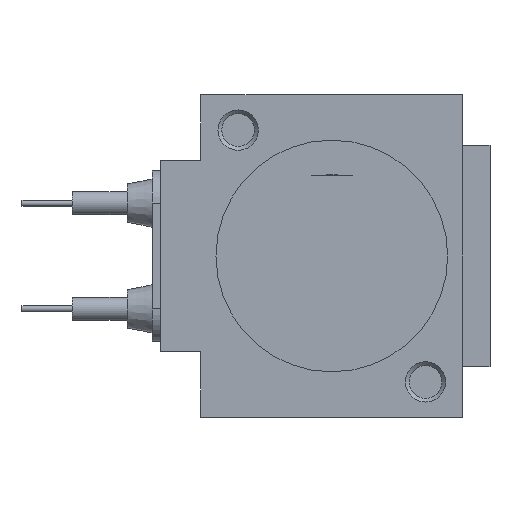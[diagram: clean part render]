
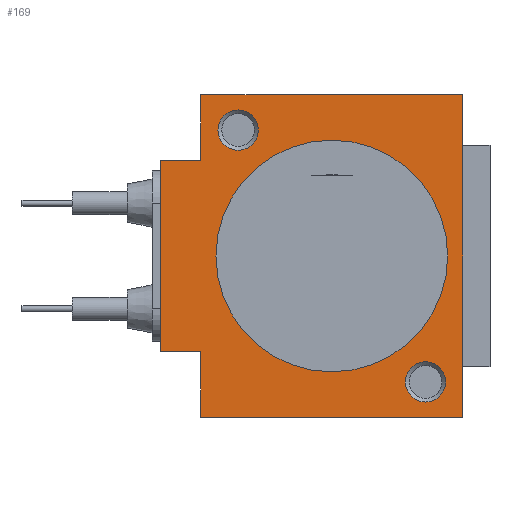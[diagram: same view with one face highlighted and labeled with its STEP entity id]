
A CAD part, front view. The second image highlights one B-rep face of the part: STEP entity #169.
In plain terms, the highlighted planar face has unit normal (0, -1, 0).
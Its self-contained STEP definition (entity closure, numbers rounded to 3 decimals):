
#169 = ADVANCED_FACE( '', ( #432, #433, #434, #435 ), #436, .F. );
#432 = FACE_BOUND( '', #819, .T. );
#433 = FACE_BOUND( '', #820, .T. );
#434 = FACE_BOUND( '', #821, .T. );
#435 = FACE_OUTER_BOUND( '', #822, .T. );
#436 = PLANE( '', #823 );
#819 = EDGE_LOOP( '', ( #1308 ) );
#820 = EDGE_LOOP( '', ( #1309 ) );
#821 = EDGE_LOOP( '', ( #1310 ) );
#822 = EDGE_LOOP( '', ( #1311, #1312, #1313, #1314, #1315, #1316, #1317, #1318 ) );
#823 = AXIS2_PLACEMENT_3D( '', #1319, #1320, #1321 );
#1308 = ORIENTED_EDGE( '', *, *, #2122, .F. );
#1309 = ORIENTED_EDGE( '', *, *, #2123, .F. );
#1310 = ORIENTED_EDGE( '', *, *, #2113, .T. );
#1311 = ORIENTED_EDGE( '', *, *, #2124, .T. );
#1312 = ORIENTED_EDGE( '', *, *, #2125, .F. );
#1313 = ORIENTED_EDGE( '', *, *, #2099, .T. );
#1314 = ORIENTED_EDGE( '', *, *, #2126, .T. );
#1315 = ORIENTED_EDGE( '', *, *, #2127, .T. );
#1316 = ORIENTED_EDGE( '', *, *, #2032, .T. );
#1317 = ORIENTED_EDGE( '', *, *, #2128, .F. );
#1318 = ORIENTED_EDGE( '', *, *, #2129, .F. );
#1319 = CARTESIAN_POINT( '', ( -13., 0., 16. ) );
#1320 = DIRECTION( '', ( 0., 1., 0. ) );
#1321 = DIRECTION( '', ( 0., 0., 1. ) );
#2032 = EDGE_CURVE( '', #2378, #2376, #2379, .T. );
#2099 = EDGE_CURVE( '', #2494, #2492, #2495, .T. );
#2113 = EDGE_CURVE( '', #2517, #2517, #2518, .T. );
#2122 = EDGE_CURVE( '', #2531, #2531, #2532, .T. );
#2123 = EDGE_CURVE( '', #2533, #2533, #2534, .T. );
#2124 = EDGE_CURVE( '', #2535, #2536, #2537, .T. );
#2125 = EDGE_CURVE( '', #2494, #2536, #2538, .T. );
#2126 = EDGE_CURVE( '', #2492, #2539, #2540, .T. );
#2127 = EDGE_CURVE( '', #2539, #2378, #2541, .T. );
#2128 = EDGE_CURVE( '', #2542, #2376, #2543, .T. );
#2129 = EDGE_CURVE( '', #2535, #2542, #2544, .T. );
#2376 = VERTEX_POINT( '', #2878 );
#2378 = VERTEX_POINT( '', #2881 );
#2379 = LINE( '', #2882, #2883 );
#2492 = VERTEX_POINT( '', #3021 );
#2494 = VERTEX_POINT( '', #3024 );
#2495 = LINE( '', #3025, #3026 );
#2517 = VERTEX_POINT( '', #3054 );
#2518 = CIRCLE( '', #3055, 11.5 );
#2531 = VERTEX_POINT( '', #3070 );
#2532 = CIRCLE( '', #3071, 2. );
#2533 = VERTEX_POINT( '', #3072 );
#2534 = CIRCLE( '', #3073, 2. );
#2535 = VERTEX_POINT( '', #3074 );
#2536 = VERTEX_POINT( '', #3075 );
#2537 = LINE( '', #3076, #3077 );
#2538 = LINE( '', #3078, #3079 );
#2539 = VERTEX_POINT( '', #3080 );
#2540 = LINE( '', #3081, #3082 );
#2541 = LINE( '', #3083, #3084 );
#2542 = VERTEX_POINT( '', #3085 );
#2543 = LINE( '', #3086, #3087 );
#2544 = LINE( '', #3088, #3089 );
#2878 = CARTESIAN_POINT( '', ( 13., 0., -16. ) );
#2881 = CARTESIAN_POINT( '', ( -13., 0., -16. ) );
#2882 = CARTESIAN_POINT( '', ( -13., 0., -16. ) );
#2883 = VECTOR( '', #3483, 1000. );
#3021 = CARTESIAN_POINT( '', ( -17., 0., -9.5 ) );
#3024 = CARTESIAN_POINT( '', ( -17., 0., 9.5 ) );
#3025 = CARTESIAN_POINT( '', ( -17., 0., 9.5 ) );
#3026 = VECTOR( '', #3594, 1000. );
#3054 = CARTESIAN_POINT( '', ( 11.5, 0., 0. ) );
#3055 = AXIS2_PLACEMENT_3D( '', #3619, #3620, #3621 );
#3070 = CARTESIAN_POINT( '', ( 9.3, 0., -14.5 ) );
#3071 = AXIS2_PLACEMENT_3D( '', #3633, #3634, #3635 );
#3072 = CARTESIAN_POINT( '', ( -9.3, 0., 10.5 ) );
#3073 = AXIS2_PLACEMENT_3D( '', #3636, #3637, #3638 );
#3074 = CARTESIAN_POINT( '', ( -13., 0., 16. ) );
#3075 = CARTESIAN_POINT( '', ( -13., 0., 9.5 ) );
#3076 = CARTESIAN_POINT( '', ( -13., 0., 16. ) );
#3077 = VECTOR( '', #3639, 1000. );
#3078 = CARTESIAN_POINT( '', ( -17., 0., 9.5 ) );
#3079 = VECTOR( '', #3640, 1000. );
#3080 = CARTESIAN_POINT( '', ( -13., 0., -9.5 ) );
#3081 = CARTESIAN_POINT( '', ( -17., 0., -9.5 ) );
#3082 = VECTOR( '', #3641, 1000. );
#3083 = CARTESIAN_POINT( '', ( -13., 0., 16. ) );
#3084 = VECTOR( '', #3642, 1000. );
#3085 = CARTESIAN_POINT( '', ( 13., 0., 16. ) );
#3086 = CARTESIAN_POINT( '', ( 13., 0., 16. ) );
#3087 = VECTOR( '', #3643, 1000. );
#3088 = CARTESIAN_POINT( '', ( -13., 0., 16. ) );
#3089 = VECTOR( '', #3644, 1000. );
#3483 = DIRECTION( '', ( 1., 0., 0. ) );
#3594 = DIRECTION( '', ( 0., 0., -1. ) );
#3619 = CARTESIAN_POINT( '', ( 0., 0., 0. ) );
#3620 = DIRECTION( '', ( 0., 1., 0. ) );
#3621 = DIRECTION( '', ( 1., 0., 0. ) );
#3633 = CARTESIAN_POINT( '', ( 9.3, 0., -12.5 ) );
#3634 = DIRECTION( '', ( 0., -1., 0. ) );
#3635 = DIRECTION( '', ( 0., 0., -1. ) );
#3636 = CARTESIAN_POINT( '', ( -9.3, 0., 12.5 ) );
#3637 = DIRECTION( '', ( 0., -1., 0. ) );
#3638 = DIRECTION( '', ( 0., 0., -1. ) );
#3639 = DIRECTION( '', ( 0., 0., -1. ) );
#3640 = DIRECTION( '', ( 1., 0., 0. ) );
#3641 = DIRECTION( '', ( 1., 0., 0. ) );
#3642 = DIRECTION( '', ( 0., 0., -1. ) );
#3643 = DIRECTION( '', ( 0., 0., -1. ) );
#3644 = DIRECTION( '', ( 1., 0., 0. ) );
